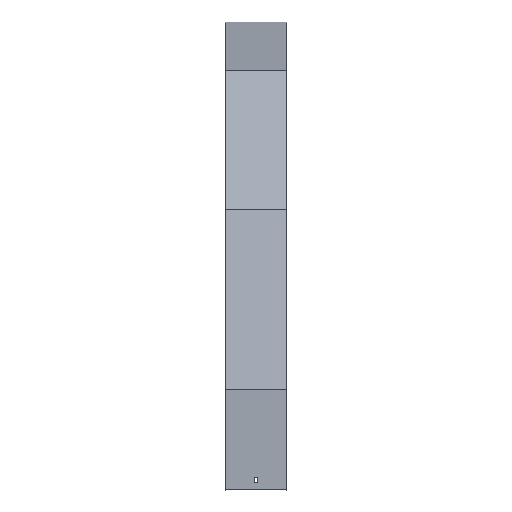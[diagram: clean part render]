
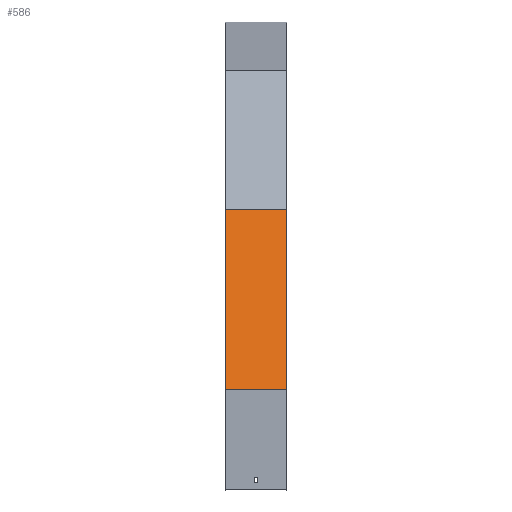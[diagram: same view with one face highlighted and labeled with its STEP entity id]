
A CAD part, top view. The second image highlights one B-rep face of the part: STEP entity #586.
In plain terms, the highlighted planar face has unit normal (0, 0.259, 0.966).
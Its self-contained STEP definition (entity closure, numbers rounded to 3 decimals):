
#26 = VECTOR ( 'NONE', #331, 1000. ) ;
#30 = LINE ( 'NONE', #453, #965 ) ;
#38 = DIRECTION ( 'NONE',  ( -1., 0., 0. ) ) ;
#67 = DIRECTION ( 'NONE',  ( 0., -0.966, 0.259 ) ) ;
#95 = FACE_OUTER_BOUND ( 'NONE', #765, .T. ) ;
#179 = PLANE ( 'NONE',  #370 ) ;
#186 = ORIENTED_EDGE ( 'NONE', *, *, #879, .T. ) ;
#236 = CARTESIAN_POINT ( 'NONE',  ( -51.5, -298.106, 700.854 ) ) ;
#244 = LINE ( 'NONE', #584, #552 ) ;
#263 = CARTESIAN_POINT ( 'NONE',  ( 51.5, -298.106, 700.854 ) ) ;
#331 = DIRECTION ( 'NONE',  ( 0., -0.966, 0.259 ) ) ;
#345 = CARTESIAN_POINT ( 'NONE',  ( 51.5, -593.325, 779.958 ) ) ;
#370 = AXIS2_PLACEMENT_3D ( 'NONE', #263, #1052, #861 ) ;
#376 = VERTEX_POINT ( 'NONE', #706 ) ;
#453 = CARTESIAN_POINT ( 'NONE',  ( 51.5, -292.929, 699.467 ) ) ;
#455 = EDGE_CURVE ( 'NONE', #759, #376, #932, .T. ) ;
#461 = EDGE_CURVE ( 'NONE', #1042, #652, #833, .T. ) ;
#469 = CARTESIAN_POINT ( 'NONE',  ( 51.5, -292.929, 699.467 ) ) ;
#499 = ORIENTED_EDGE ( 'NONE', *, *, #461, .F. ) ;
#528 = EDGE_CURVE ( 'NONE', #652, #376, #244, .T. ) ;
#552 = VECTOR ( 'NONE', #848, 1000. ) ;
#584 = CARTESIAN_POINT ( 'NONE',  ( 51.5, -593.325, 779.958 ) ) ;
#586 = ADVANCED_FACE ( 'NONE', ( #95 ), #179, .F. ) ;
#646 = VECTOR ( 'NONE', #67, 1000. ) ;
#652 = VERTEX_POINT ( 'NONE', #345 ) ;
#706 = CARTESIAN_POINT ( 'NONE',  ( -51.5, -593.325, 779.958 ) ) ;
#738 = CARTESIAN_POINT ( 'NONE',  ( 51.5, -298.106, 700.854 ) ) ;
#759 = VERTEX_POINT ( 'NONE', #1011 ) ;
#765 = EDGE_LOOP ( 'NONE', ( #1099, #1013, #499, #186 ) ) ;
#833 = LINE ( 'NONE', #738, #646 ) ;
#848 = DIRECTION ( 'NONE',  ( -1., 0., 0. ) ) ;
#861 = DIRECTION ( 'NONE',  ( 0., 0.966, -0.259 ) ) ;
#879 = EDGE_CURVE ( 'NONE', #1042, #759, #30, .T. ) ;
#932 = LINE ( 'NONE', #236, #26 ) ;
#965 = VECTOR ( 'NONE', #38, 1000. ) ;
#1011 = CARTESIAN_POINT ( 'NONE',  ( -51.5, -292.929, 699.467 ) ) ;
#1013 = ORIENTED_EDGE ( 'NONE', *, *, #528, .F. ) ;
#1042 = VERTEX_POINT ( 'NONE', #469 ) ;
#1052 = DIRECTION ( 'NONE',  ( 0., -0.259, -0.966 ) ) ;
#1099 = ORIENTED_EDGE ( 'NONE', *, *, #455, .T. ) ;
